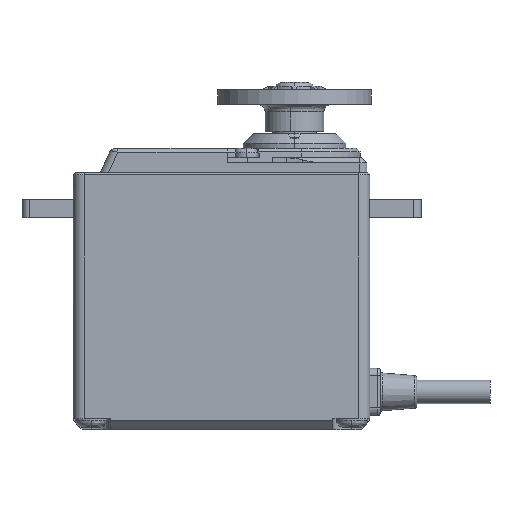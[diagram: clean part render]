
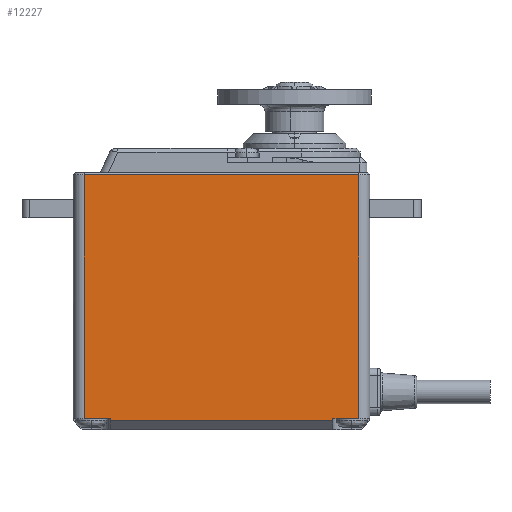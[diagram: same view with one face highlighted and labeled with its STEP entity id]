
A CAD part, left-side view. The second image highlights one B-rep face of the part: STEP entity #12227.
In plain terms, the highlighted planar face has unit normal (-1, 0, 0).
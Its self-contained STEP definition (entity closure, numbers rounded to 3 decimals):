
#78 = CARTESIAN_POINT ( 'NONE',  ( -10.5, -8.8, -37.2 ) ) ;
#219 = LINE ( 'NONE', #78, #12171 ) ;
#369 = VECTOR ( 'NONE', #5475, 1000. ) ;
#637 = ORIENTED_EDGE ( 'NONE', *, *, #12870, .T. ) ;
#1225 = DIRECTION ( 'NONE',  ( 0., -1., 0. ) ) ;
#1573 = EDGE_CURVE ( 'NONE', #7512, #1829, #3577, .T. ) ;
#1742 = VECTOR ( 'NONE', #7278, 1000. ) ;
#1829 = VERTEX_POINT ( 'NONE', #2256 ) ;
#1966 = VECTOR ( 'NONE', #2659, 1000. ) ;
#2185 = ORIENTED_EDGE ( 'NONE', *, *, #9006, .T. ) ;
#2215 = CARTESIAN_POINT ( 'NONE',  ( -10.5, 28.7, -36.9 ) ) ;
#2256 = CARTESIAN_POINT ( 'NONE',  ( -10.5, 28.7, -3.6 ) ) ;
#2364 = CARTESIAN_POINT ( 'NONE',  ( -10.5, -8.8, -3.6 ) ) ;
#2416 = FACE_OUTER_BOUND ( 'NONE', #6346, .T. ) ;
#2424 = EDGE_CURVE ( 'NONE', #1829, #8579, #5923, .T. ) ;
#2451 = VERTEX_POINT ( 'NONE', #7927 ) ;
#2659 = DIRECTION ( 'NONE',  ( 0., 0., -1. ) ) ;
#2661 = EDGE_CURVE ( 'NONE', #12736, #12037, #12254, .T. ) ;
#2848 = CARTESIAN_POINT ( 'NONE',  ( -10.5, 28.7, -3.6 ) ) ;
#2996 = VECTOR ( 'NONE', #1225, 1000. ) ;
#3301 = CARTESIAN_POINT ( 'NONE',  ( -10.5, -8.8, -36.9 ) ) ;
#3382 = CARTESIAN_POINT ( 'NONE',  ( -10.5, -5.25, -36.9 ) ) ;
#3577 = LINE ( 'NONE', #11418, #369 ) ;
#4189 = DIRECTION ( 'NONE',  ( 0., 0., 1. ) ) ;
#4633 = ORIENTED_EDGE ( 'NONE', *, *, #11747, .T. ) ;
#4907 = ORIENTED_EDGE ( 'NONE', *, *, #2661, .T. ) ;
#5010 = VECTOR ( 'NONE', #8534, 1000. ) ;
#5077 = LINE ( 'NONE', #5205, #2996 ) ;
#5205 = CARTESIAN_POINT ( 'NONE',  ( -10.5, -8.8, -36.9 ) ) ;
#5296 = CARTESIAN_POINT ( 'NONE',  ( -10.5, -8.8, -3.6 ) ) ;
#5386 = VERTEX_POINT ( 'NONE', #6327 ) ;
#5475 = DIRECTION ( 'NONE',  ( 0., 1., 0. ) ) ;
#5534 = CARTESIAN_POINT ( 'NONE',  ( -10.5, -5.25, -38.4 ) ) ;
#5585 = ORIENTED_EDGE ( 'NONE', *, *, #12194, .T. ) ;
#5923 = LINE ( 'NONE', #2848, #6581 ) ;
#6327 = CARTESIAN_POINT ( 'NONE',  ( -10.5, 25.15, -37.2 ) ) ;
#6346 = EDGE_LOOP ( 'NONE', ( #8957, #2185, #11361, #4633, #637, #4907, #5585, #9839 ) ) ;
#6400 = DIRECTION ( 'NONE',  ( 0., 0., 1. ) ) ;
#6581 = VECTOR ( 'NONE', #6832, 1000. ) ;
#6666 = VECTOR ( 'NONE', #4189, 1000. ) ;
#6832 = DIRECTION ( 'NONE',  ( 0., 0., -1. ) ) ;
#7180 = CARTESIAN_POINT ( 'NONE',  ( -10.5, -8.8, -3.6 ) ) ;
#7278 = DIRECTION ( 'NONE',  ( 0., -1., 0. ) ) ;
#7512 = VERTEX_POINT ( 'NONE', #2364 ) ;
#7617 = LINE ( 'NONE', #11609, #1966 ) ;
#7927 = CARTESIAN_POINT ( 'NONE',  ( -10.5, -5.25, -37.2 ) ) ;
#7973 = DIRECTION ( 'NONE',  ( 0., -1., 0. ) ) ;
#8482 = PLANE ( 'NONE',  #8956 ) ;
#8534 = DIRECTION ( 'NONE',  ( 0., 0., 1. ) ) ;
#8579 = VERTEX_POINT ( 'NONE', #2215 ) ;
#8905 = CARTESIAN_POINT ( 'NONE',  ( -10.5, 25.15, -36.9 ) ) ;
#8956 = AXIS2_PLACEMENT_3D ( 'NONE', #5296, #9472, #6400 ) ;
#8957 = ORIENTED_EDGE ( 'NONE', *, *, #2424, .T. ) ;
#9006 = EDGE_CURVE ( 'NONE', #8579, #11695, #5077, .T. ) ;
#9472 = DIRECTION ( 'NONE',  ( -1., 0., 0. ) ) ;
#9839 = ORIENTED_EDGE ( 'NONE', *, *, #1573, .T. ) ;
#11277 = EDGE_CURVE ( 'NONE', #11695, #5386, #7617, .T. ) ;
#11361 = ORIENTED_EDGE ( 'NONE', *, *, #11277, .T. ) ;
#11418 = CARTESIAN_POINT ( 'NONE',  ( -10.5, -8.8, -3.6 ) ) ;
#11479 = LINE ( 'NONE', #5534, #5010 ) ;
#11609 = CARTESIAN_POINT ( 'NONE',  ( -10.5, 25.15, -38.4 ) ) ;
#11695 = VERTEX_POINT ( 'NONE', #8905 ) ;
#11747 = EDGE_CURVE ( 'NONE', #5386, #2451, #219, .T. ) ;
#12012 = LINE ( 'NONE', #7180, #6666 ) ;
#12037 = VERTEX_POINT ( 'NONE', #12611 ) ;
#12171 = VECTOR ( 'NONE', #7973, 1000. ) ;
#12194 = EDGE_CURVE ( 'NONE', #12037, #7512, #12012, .T. ) ;
#12227 = ADVANCED_FACE ( 'NONE', ( #2416 ), #8482, .T. ) ;
#12254 = LINE ( 'NONE', #3301, #1742 ) ;
#12611 = CARTESIAN_POINT ( 'NONE',  ( -10.5, -8.8, -36.9 ) ) ;
#12736 = VERTEX_POINT ( 'NONE', #3382 ) ;
#12870 = EDGE_CURVE ( 'NONE', #2451, #12736, #11479, .T. ) ;
